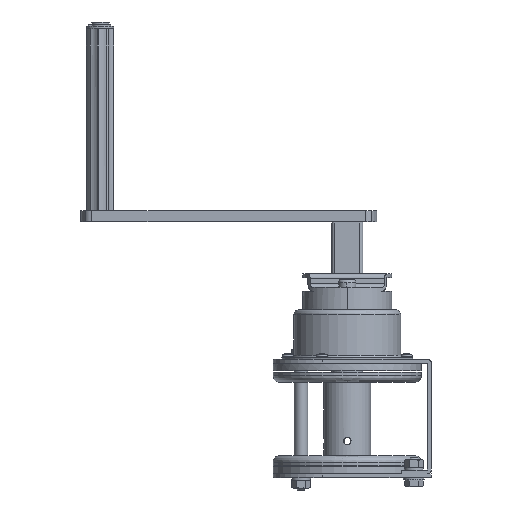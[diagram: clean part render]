
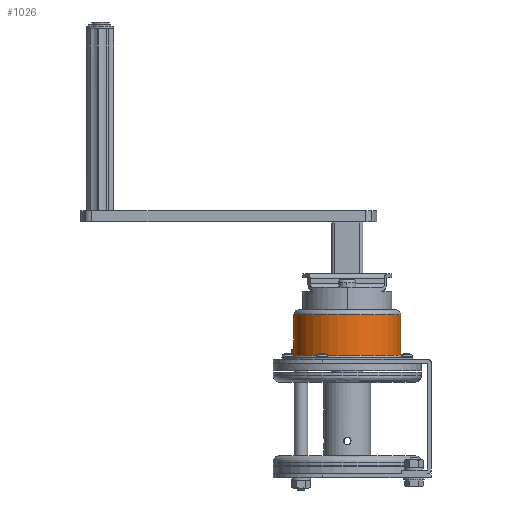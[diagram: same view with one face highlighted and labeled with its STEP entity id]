
A CAD part, left-side view. The second image highlights one B-rep face of the part: STEP entity #1026.
In plain terms, the highlighted cylindrical face has radius 43.2 mm (diameter 86.4 mm), a partial arc.
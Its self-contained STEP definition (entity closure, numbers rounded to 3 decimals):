
#1026=ADVANCED_FACE('',(#10676),#10675,.T.);
#10675=CYLINDRICAL_SURFACE('',#20532,43.2);
#10676=FACE_OUTER_BOUND('',#20533,.T.);
#20529=CARTESIAN_POINT('',(248.495,-52.675,-137.703));
#20530=DIRECTION('',(0.,0.,1.));
#20531=DIRECTION('',(0.,1.,0.));
#20532=AXIS2_PLACEMENT_3D('',#20529,#20530,#20531);
#20533=EDGE_LOOP('',(#28414,#28415,#28416,#28417));
#28414=ORIENTED_EDGE('',*,*,#33267,.T.);
#28415=ORIENTED_EDGE('',*,*,#31065,.F.);
#28416=ORIENTED_EDGE('',*,*,#31096,.F.);
#28417=ORIENTED_EDGE('',*,*,#31086,.T.);
#31065=EDGE_CURVE('',#36863,#36843,#36870,.T.);
#31086=EDGE_CURVE('',#37011,#36998,#37012,.T.);
#31096=EDGE_CURVE('',#37011,#36863,#37078,.T.);
#33267=EDGE_CURVE('',#36998,#36843,#51523,.T.);
#36843=VERTEX_POINT('',#59602);
#36863=VERTEX_POINT('',#59614);
#36870=LINE('',#59618,#59619);
#36998=VERTEX_POINT('',#59712);
#37011=VERTEX_POINT('',#59720);
#37012=LINE('',#59721,#59722);
#37078=CIRCLE('',#59799,43.2);
#51523=CIRCLE('',#68695,43.2);
#59602=CARTESIAN_POINT('',(248.495,-9.475,-141.703));
#59614=CARTESIAN_POINT('',(248.495,-9.475,-174.503));
#59618=CARTESIAN_POINT('',(248.495,-9.475,-174.503));
#59619=VECTOR('',#59620,32.8);
#59620=DIRECTION('',(0.,0.,1.));
#59712=CARTESIAN_POINT('',(248.495,-95.875,-141.703));
#59720=CARTESIAN_POINT('',(248.495,-95.875,-174.503));
#59721=CARTESIAN_POINT('',(248.495,-95.875,-174.503));
#59722=VECTOR('',#59723,32.8);
#59723=DIRECTION('',(0.,0.,1.));
#59796=CARTESIAN_POINT('',(248.495,-52.675,-174.503));
#59797=DIRECTION('',(0.,0.,-1.));
#59798=DIRECTION('',(0.,1.,0.));
#59799=AXIS2_PLACEMENT_3D('',#59796,#59797,#59798);
#68692=CARTESIAN_POINT('',(248.495,-52.675,-141.703));
#68693=DIRECTION('',(0.,0.,-1.));
#68694=DIRECTION('',(0.,1.,0.));
#68695=AXIS2_PLACEMENT_3D('',#68692,#68693,#68694);
